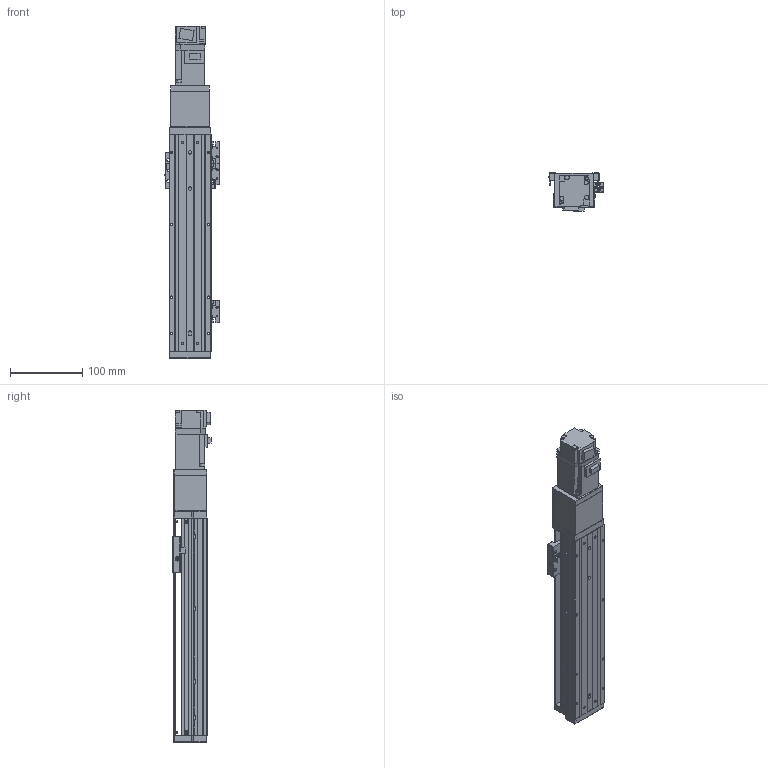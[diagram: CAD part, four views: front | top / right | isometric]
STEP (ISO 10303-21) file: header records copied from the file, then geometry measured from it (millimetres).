
FILE_DESCRIPTION (( 'STEP AP203' ), '1' );
FILE_NAME ('KTHA50-200-BC-M10-C4L.step', '2022-03-19T07:02:37', ( '微软用户' ), ( '微软中国' ), 'SwSTEP 2.0', 'SolidWorks 2020', '' );
FILE_SCHEMA (( 'CONFIG_CONTROL_DESIGN' ));
Length unit declared in the file: millimetre
Products named in the file (18): KTHA50-005; CTHA60-016; CTHA50-027; GB¨uT 70.2-M3¡Á6_M3¡Á6; CTHA60-021; CTHA50-006-2_CTHA60-006-2; EE_SX911P_R; GBT 70.3-M3℅6; CTHA50-013; GBT77-2000 M3×3; KTHA50-001_300; HG-KR13（三菱）; GBT 70.1-M3℅6; KTHA50-002; KTHA50-200-BC-M10-C4L; CTHA60-017; KTHA50-004; GBT 70.1-M4×12
Assembly tree (52 placements, depth 2):
  KTHA50-200-BC-M10-C4L
    KTHA50-001_300
    KTHA50-002
    KTHA50-004
    KTHA50-005
    GB¨uT 70.2-M3¡Á6_M3¡Á6  x6
    EE_SX911P_R  x3
    GBT77-2000 M3×3  x6
    GBT 70.1-M3℅6  x6
    CTHA60-017  x3
    GBT 70.1-M4×12  x10
    CTHA60-016  x2
    CTHA60-021  x2
    GBT 70.3-M3℅6  x6
    CTHA50-027
    CTHA50-006-2_CTHA60-006-2
    CTHA50-013
    HG-KR13（三菱）
Bounding box: 75.22 x 53.3 x 458.6 mm (x, y, z)
Volume: 794712.7 mm3; surface area: 211724.2 mm2
Topology: 55 solids, 55 shells, 2126 faces, 5010 edges, 3064 vertices
Faces by surface type: plane 1208, cylinder 500, cone 314, torus 88, sphere 16
Entity records: 33602 total; most frequent: CARTESIAN_POINT 5466, DIRECTION 5400, ORIENTED_EDGE 5092, EDGE_CURVE 2546, AXIS2_PLACEMENT_3D 1811, VECTOR 1778, LINE 1778, VERTEX_POINT 1597
